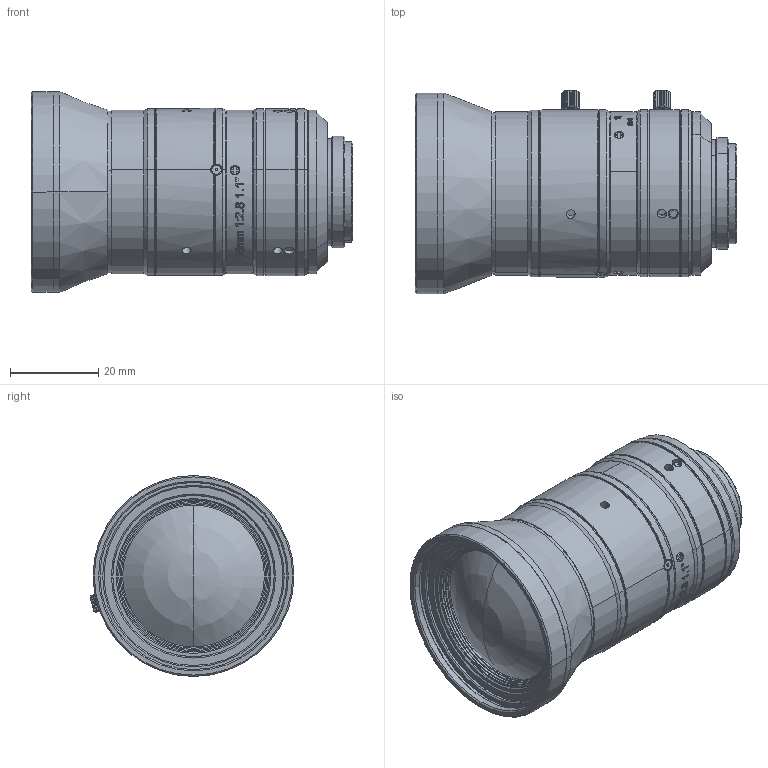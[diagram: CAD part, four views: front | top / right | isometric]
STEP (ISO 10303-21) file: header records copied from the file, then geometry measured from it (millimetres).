
FILE_DESCRIPTION((''),'2;1');
FILE_NAME('200_ASM_ASM','2020-11-11T',('SEELE'),(''),'PRO/ENGINEER BY PARAMETRIC TECHNOLOGY CORPORATION, 2010020','PRO/ENGINEER BY PARAMETRIC TECHNOLOGY CORPORATION, 2010020','');
FILE_SCHEMA(('CONFIG_CONTROL_DESIGN'));
Length unit declared in the file: millimetre
Products named in the file (36): MSBR-78; MSBR-77; MSBR-49; MSBR-48; MSBR-47; MSBR-46; MSBR-45; MSBR-44; MSBR-43; MSBR-42; MSBR-41; MSBR-39; MSBR-38; MSBR-37; MSBR-36; MSBR-35; MSBR-34; MSBR-33; MSBR-32; MSBR-31; MSBR-30; MSBR-29; MSBR-28; MSBR-27; MSBR-26; MSBR-25; MSBR-24; MSBR-23; MSBR-22; MSBR-21; MSBR-20; MSBR-10; MSBR-3; MSBR-2; MSBR-1; 200_ASM_ASM
Assembly tree (35 placements, depth 2):
  200_ASM_ASM
    MSBR-78
    MSBR-77
    MSBR-49
    MSBR-48
    MSBR-47
    MSBR-46
    MSBR-45
    MSBR-44
    MSBR-43
    MSBR-42
    MSBR-41
    MSBR-39
    MSBR-38
    MSBR-37
    MSBR-36
    MSBR-35
    MSBR-34
    MSBR-33
    MSBR-32
    MSBR-31
    MSBR-30
    MSBR-29
    MSBR-28
    MSBR-27
    MSBR-26
    MSBR-25
    MSBR-24
    MSBR-23
    MSBR-22
    MSBR-21
    MSBR-20
    MSBR-10
    MSBR-3
    MSBR-2
    MSBR-1
Bounding box: 73 x 46.28 x 45.6 mm (x, y, z)
Volume: 49606.8 mm3; surface area: 46021.2 mm2
Topology: 35 solids, 35 shells, 1818 faces, 4574 edges, 2937 vertices
Faces by surface type: plane 551, cylinder 523, bspline 485, cone 243, sphere 8, extrusion 6, torus 2
Entity records: 83870 total; most frequent: CARTESIAN_POINT 42565, ORIENTED_EDGE 9132, DIRECTION 7195, EDGE_CURVE 4566, VERTEX_POINT 2937, AXIS2_PLACEMENT_3D 2654, EDGE_LOOP 2051, VECTOR 1887
